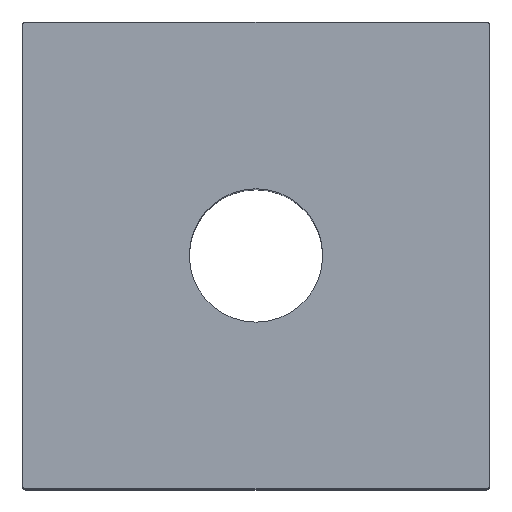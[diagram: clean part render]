
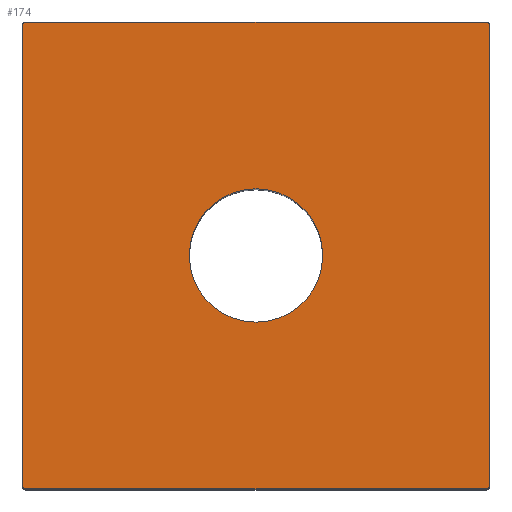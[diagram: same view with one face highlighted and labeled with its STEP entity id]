
A CAD part, top view. The second image highlights one B-rep face of the part: STEP entity #174.
In plain terms, the highlighted planar face has unit normal (0, 0, 1).
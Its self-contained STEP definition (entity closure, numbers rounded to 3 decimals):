
#174=ADVANCED_FACE('',(#213,#214),#202,.T.);
#202=PLANE('',#625);
#213=FACE_BOUND('',#217,.T.);
#214=FACE_BOUND('',#218,.T.);
#217=EDGE_LOOP('',(#323,#324,#325,#326,#327,#328,#329,#330));
#218=EDGE_LOOP('',(#331,#332));
#249=LINE('',#781,#283);
#250=LINE('',#785,#284);
#251=LINE('',#789,#285);
#252=LINE('',#793,#286);
#283=VECTOR('',#670,1.);
#284=VECTOR('',#673,1.);
#285=VECTOR('',#676,1.);
#286=VECTOR('',#679,1.);
#323=ORIENTED_EDGE('',*,*,#531,.T.);
#324=ORIENTED_EDGE('',*,*,#532,.T.);
#325=ORIENTED_EDGE('',*,*,#533,.T.);
#326=ORIENTED_EDGE('',*,*,#534,.T.);
#327=ORIENTED_EDGE('',*,*,#535,.T.);
#328=ORIENTED_EDGE('',*,*,#536,.T.);
#329=ORIENTED_EDGE('',*,*,#537,.T.);
#330=ORIENTED_EDGE('',*,*,#538,.T.);
#331=ORIENTED_EDGE('',*,*,#539,.T.);
#332=ORIENTED_EDGE('',*,*,#540,.T.);
#479=VERTEX_POINT('',#779);
#480=VERTEX_POINT('',#780);
#481=VERTEX_POINT('',#782);
#482=VERTEX_POINT('',#784);
#483=VERTEX_POINT('',#786);
#484=VERTEX_POINT('',#788);
#485=VERTEX_POINT('',#790);
#486=VERTEX_POINT('',#792);
#487=VERTEX_POINT('',#795);
#488=VERTEX_POINT('',#796);
#531=EDGE_CURVE('',#479,#480,#605,.T.);
#532=EDGE_CURVE('',#480,#481,#249,.T.);
#533=EDGE_CURVE('',#481,#482,#606,.T.);
#534=EDGE_CURVE('',#482,#483,#250,.T.);
#535=EDGE_CURVE('',#483,#484,#607,.T.);
#536=EDGE_CURVE('',#484,#485,#251,.T.);
#537=EDGE_CURVE('',#485,#486,#608,.T.);
#538=EDGE_CURVE('',#486,#479,#252,.T.);
#539=EDGE_CURVE('',#487,#488,#609,.T.);
#540=EDGE_CURVE('',#488,#487,#610,.T.);
#605=CIRCLE('',#619,0.5);
#606=CIRCLE('',#620,0.5);
#607=CIRCLE('',#621,0.5);
#608=CIRCLE('',#622,0.5);
#609=CIRCLE('',#623,10.);
#610=CIRCLE('',#624,10.);
#619=AXIS2_PLACEMENT_3D('',#778,#668,#669);
#620=AXIS2_PLACEMENT_3D('',#783,#671,#672);
#621=AXIS2_PLACEMENT_3D('',#787,#674,#675);
#622=AXIS2_PLACEMENT_3D('',#791,#677,#678);
#623=AXIS2_PLACEMENT_3D('',#794,#680,#681);
#624=AXIS2_PLACEMENT_3D('',#797,#682,#683);
#625=AXIS2_PLACEMENT_3D('',#798,#684,#685);
#668=DIRECTION('',(0.,0.,1.));
#669=DIRECTION('',(-0.707,0.707,0.));
#670=DIRECTION('',(0.,1.,0.));
#671=DIRECTION('',(0.,0.,1.));
#672=DIRECTION('',(-0.707,-0.707,0.));
#673=DIRECTION('',(-1.,0.,0.));
#674=DIRECTION('',(0.,0.,1.));
#675=DIRECTION('',(0.707,-0.707,0.));
#676=DIRECTION('',(0.,-1.,0.));
#677=DIRECTION('',(0.,0.,1.));
#678=DIRECTION('',(0.707,0.707,0.));
#679=DIRECTION('',(1.,0.,0.));
#680=DIRECTION('',(0.,0.,-1.));
#681=DIRECTION('',(-1.,0.,0.));
#682=DIRECTION('',(0.,0.,-1.));
#683=DIRECTION('',(1.,0.,0.));
#684=DIRECTION('',(0.,0.,1.));
#685=DIRECTION('',(-1.,0.,0.));
#778=CARTESIAN_POINT('',(34.5,-34.5,92.));
#779=CARTESIAN_POINT('',(34.5,-35.,92.));
#780=CARTESIAN_POINT('',(35.,-34.5,92.));
#781=CARTESIAN_POINT('',(35.,-34.5,92.));
#782=CARTESIAN_POINT('',(35.,34.5,92.));
#783=CARTESIAN_POINT('',(34.5,34.5,92.));
#784=CARTESIAN_POINT('',(34.5,35.,92.));
#785=CARTESIAN_POINT('',(-34.5,35.,92.));
#786=CARTESIAN_POINT('',(-34.5,35.,92.));
#787=CARTESIAN_POINT('',(-34.5,34.5,92.));
#788=CARTESIAN_POINT('',(-35.,34.5,92.));
#789=CARTESIAN_POINT('',(-35.,-34.5,92.));
#790=CARTESIAN_POINT('',(-35.,-34.5,92.));
#791=CARTESIAN_POINT('',(-34.5,-34.5,92.));
#792=CARTESIAN_POINT('',(-34.5,-35.,92.));
#793=CARTESIAN_POINT('',(-34.5,-35.,92.));
#794=CARTESIAN_POINT('',(0.,0.,92.));
#795=CARTESIAN_POINT('',(0.,10.,92.));
#796=CARTESIAN_POINT('',(0.,-10.,92.));
#797=CARTESIAN_POINT('',(0.,0.,92.));
#798=CARTESIAN_POINT('',(34.5,-35.,92.));
